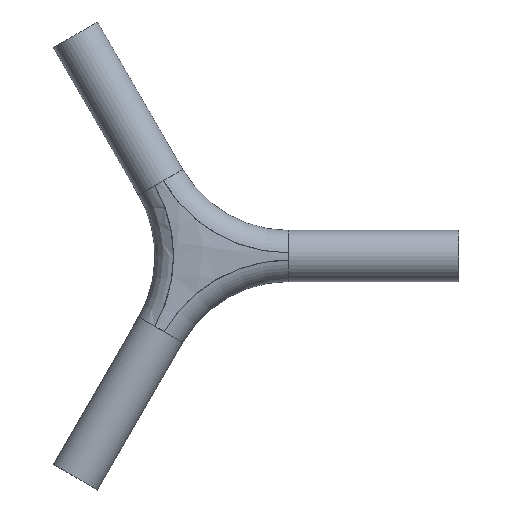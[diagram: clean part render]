
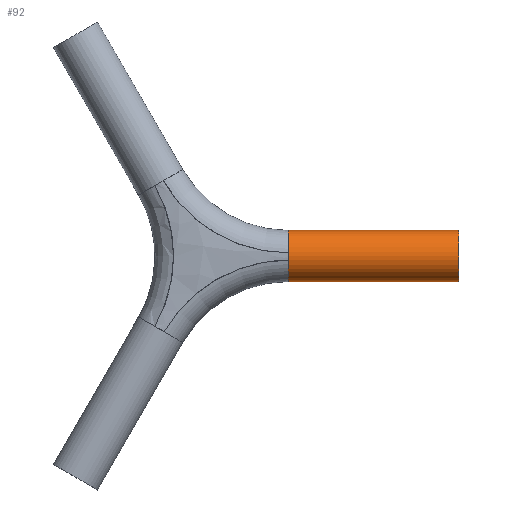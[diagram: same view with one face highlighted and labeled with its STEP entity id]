
A CAD part, top view. The second image highlights one B-rep face of the part: STEP entity #92.
In plain terms, the highlighted cylindrical face has radius 15 mm (diameter 30 mm), a partial arc.
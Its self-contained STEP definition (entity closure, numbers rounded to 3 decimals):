
#53=CARTESIAN_POINT('Axis2P3D Location',(100.,0.,0.)) ;
#58=CARTESIAN_POINT('Line Origine',(100.,15.,0.)) ;
#62=CARTESIAN_POINT('Vertex',(50.,15.,0.)) ;
#64=CARTESIAN_POINT('Vertex',(150.,15.,0.)) ;
#67=CARTESIAN_POINT('Axis2P3D Location',(50.,0.,0.)) ;
#71=CARTESIAN_POINT('Vertex',(50.,-15.,0.)) ;
#74=CARTESIAN_POINT('Line Origine',(100.,-15.,0.)) ;
#78=CARTESIAN_POINT('Vertex',(150.,-15.,0.)) ;
#81=CARTESIAN_POINT('Axis2P3D Location',(150.,0.,0.)) ;
#54=DIRECTION('Axis2P3D Direction',(1.,0.,0.)) ;
#55=DIRECTION('Axis2P3D XDirection',(0.,1.,0.)) ;
#59=DIRECTION('Vector Direction',(1.,0.,0.)) ;
#68=DIRECTION('Axis2P3D Direction',(1.,0.,0.)) ;
#75=DIRECTION('Vector Direction',(1.,0.,0.)) ;
#82=DIRECTION('Axis2P3D Direction',(1.,0.,0.)) ;
#56=AXIS2_PLACEMENT_3D('Cylinder Axis2P3D',#53,#54,#55) ;
#69=AXIS2_PLACEMENT_3D('Circle Axis2P3D',#67,#68,$) ;
#83=AXIS2_PLACEMENT_3D('Circle Axis2P3D',#81,#82,$) ;
#87=ORIENTED_EDGE('',*,*,#66,.F.) ;
#88=ORIENTED_EDGE('',*,*,#73,.T.) ;
#89=ORIENTED_EDGE('',*,*,#80,.T.) ;
#90=ORIENTED_EDGE('',*,*,#85,.F.) ;
#60=VECTOR('Line Direction',#59,1.) ;
#76=VECTOR('Line Direction',#75,1.) ;
#92=ADVANCED_FACE('Split.1',(#91),#57,.T.) ;
#70=CIRCLE('generated circle',#69,15.) ;
#84=CIRCLE('generated circle',#83,15.) ;
#57=CYLINDRICAL_SURFACE('generated cylinder',#56,15.) ;
#66=EDGE_CURVE('',#63,#65,#61,.T.) ;
#73=EDGE_CURVE('',#63,#72,#70,.T.) ;
#80=EDGE_CURVE('',#72,#79,#77,.T.) ;
#85=EDGE_CURVE('',#65,#79,#84,.T.) ;
#86=EDGE_LOOP('',(#87,#88,#89,#90)) ;
#91=FACE_OUTER_BOUND('',#86,.T.) ;
#61=LINE('Line',#58,#60) ;
#77=LINE('Line',#74,#76) ;
#63=VERTEX_POINT('',#62) ;
#65=VERTEX_POINT('',#64) ;
#72=VERTEX_POINT('',#71) ;
#79=VERTEX_POINT('',#78) ;
